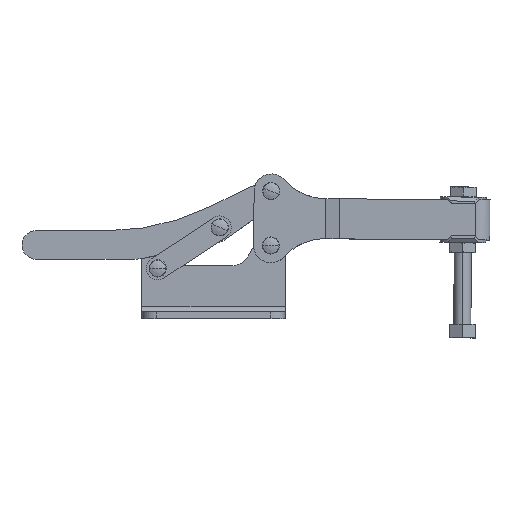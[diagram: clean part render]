
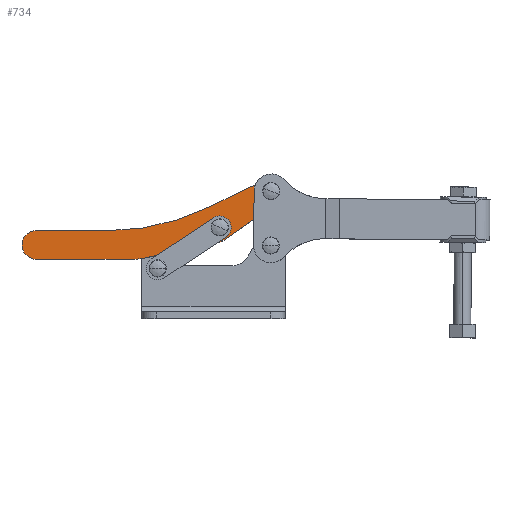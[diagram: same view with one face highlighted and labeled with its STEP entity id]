
A CAD part, top view. The second image highlights one B-rep face of the part: STEP entity #734.
In plain terms, the highlighted planar face has unit normal (0, 0, 1) as drawn and (0, -1, 0) by its records, which use the part's own axes.
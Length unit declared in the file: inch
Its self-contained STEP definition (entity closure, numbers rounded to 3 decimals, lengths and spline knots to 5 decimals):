
#264=CARTESIAN_POINT('',(5.80858,0.0,0.88249));
#265=VERTEX_POINT('',#264);
#281=CARTESIAN_POINT('',(5.55458,0.0,0.88249));
#282=VERTEX_POINT('',#281);
#289=CARTESIAN_POINT('',(5.68158,0.0,0.88249));
#290=DIRECTION('',(0.0,1.0,0.0));
#291=DIRECTION('',(1.0,0.0,0.0));
#292=AXIS2_PLACEMENT_3D('',#289,#290,#291);
#293=CIRCLE('',#292,0.127);
#294=EDGE_CURVE('',#265,#282,#293,.T.);
#306=CARTESIAN_POINT('',(4.68587,0.0,0.08974));
#307=VERTEX_POINT('',#306);
#323=CARTESIAN_POINT('',(4.43187,0.0,0.08974));
#324=VERTEX_POINT('',#323);
#331=CARTESIAN_POINT('',(4.55887,0.0,0.08974));
#332=DIRECTION('',(0.0,1.0,0.0));
#333=DIRECTION('',(1.0,0.0,0.0));
#334=AXIS2_PLACEMENT_3D('',#331,#332,#333);
#335=CIRCLE('',#334,0.127);
#336=EDGE_CURVE('',#307,#324,#335,.T.);
#347=CARTESIAN_POINT('',(4.55887,0.0,0.08974));
#348=DIRECTION('',(0.0,1.0,0.0));
#349=DIRECTION('',(1.0,0.0,0.0));
#350=AXIS2_PLACEMENT_3D('',#347,#348,#349);
#351=CIRCLE('',#350,0.127);
#352=EDGE_CURVE('',#324,#307,#351,.T.);
#371=CARTESIAN_POINT('',(5.68158,0.0,0.88249));
#372=DIRECTION('',(0.0,1.0,0.0));
#373=DIRECTION('',(1.0,0.0,0.0));
#374=AXIS2_PLACEMENT_3D('',#371,#372,#373);
#375=CIRCLE('',#374,0.127);
#376=EDGE_CURVE('',#282,#265,#375,.T.);
#405=CARTESIAN_POINT('',(2.90925,0.0,-0.58089));
#406=VERTEX_POINT('',#405);
#413=CARTESIAN_POINT('',(2.64936,0.0,-0.6082));
#414=VERTEX_POINT('',#413);
#415=CARTESIAN_POINT('',(2.64936,0.0,0.6418));
#416=DIRECTION('',(0.0,1.0,0.0));
#417=DIRECTION('',(0.208,0.0,-0.978));
#418=AXIS2_PLACEMENT_3D('',#415,#416,#417);
#419=CIRCLE('',#418,1.25);
#420=EDGE_CURVE('',#406,#414,#419,.T.);
#444=CARTESIAN_POINT('',(4.55121,0.0,-0.23188));
#445=VERTEX_POINT('',#444);
#452=CARTESIAN_POINT('',(4.55121,0.0,-0.23188));
#453=DIRECTION('',(-0.978,0.0,-0.208));
#454=VECTOR('',#453,1.67864);
#455=LINE('',#452,#454);
#456=EDGE_CURVE('',#445,#406,#455,.T.);
#476=CARTESIAN_POINT('',(4.6545,0.0,-0.18673));
#477=VERTEX_POINT('',#476);
#484=CARTESIAN_POINT('',(4.49299,0.0,0.042));
#485=DIRECTION('',(0.0,1.,0.0));
#486=DIRECTION('',(0.577,0.0,-0.817));
#487=AXIS2_PLACEMENT_3D('',#484,#485,#486);
#488=CIRCLE('',#487,0.28);
#489=EDGE_CURVE('',#477,#445,#488,.T.);
#508=CARTESIAN_POINT('',(5.84366,0.0,0.65294));
#509=VERTEX_POINT('',#508);
#516=CARTESIAN_POINT('',(5.84366,0.0,0.65294));
#517=DIRECTION('',(-0.817,0.0,-0.577));
#518=VECTOR('',#517,1.45573);
#519=LINE('',#516,#518);
#520=EDGE_CURVE('',#509,#477,#519,.T.);
#540=CARTESIAN_POINT('',(5.5556,0.0,1.13367));
#541=VERTEX_POINT('',#540);
#548=CARTESIAN_POINT('',(5.68158,0.0,0.88249));
#549=DIRECTION('',(0.0,1.,0.0));
#550=DIRECTION('',(-0.448,0.0,0.894));
#551=AXIS2_PLACEMENT_3D('',#548,#549,#550);
#552=CIRCLE('',#551,0.281);
#553=EDGE_CURVE('',#541,#509,#552,.T.);
#572=CARTESIAN_POINT('',(4.31955,0.0,0.53133));
#573=VERTEX_POINT('',#572);
#580=CARTESIAN_POINT('',(4.31955,0.0,0.53133));
#581=DIRECTION('',(0.899,0.0,0.438));
#582=VECTOR('',#581,1.37501);
#583=LINE('',#580,#582);
#584=EDGE_CURVE('',#573,#541,#583,.T.);
#604=CARTESIAN_POINT('',(2.11236,0.0,0.0178));
#605=VERTEX_POINT('',#604);
#612=CARTESIAN_POINT('',(2.11236,0.0,5.0178));
#613=DIRECTION('',(0.0,-1.0,0.0));
#614=DIRECTION('',(-0.441,0.0,0.897));
#615=AXIS2_PLACEMENT_3D('',#612,#613,#614);
#616=CIRCLE('',#615,5.);
#617=EDGE_CURVE('',#605,#573,#616,.T.);
#636=CARTESIAN_POINT('',(0.55536,0.0,0.0178));
#637=VERTEX_POINT('',#636);
#644=CARTESIAN_POINT('',(0.55536,0.0,0.0178));
#645=DIRECTION('',(1.0,0.0,0.0));
#646=VECTOR('',#645,1.557);
#647=LINE('',#644,#646);
#648=EDGE_CURVE('',#637,#605,#647,.T.);
#668=CARTESIAN_POINT('',(0.55536,0.0,-0.6082));
#669=VERTEX_POINT('',#668);
#676=CARTESIAN_POINT('',(0.55536,0.0,-0.2952));
#677=DIRECTION('',(0.0,1.0,0.0));
#678=DIRECTION('',(0.0,0.0,-1.0));
#679=AXIS2_PLACEMENT_3D('',#676,#677,#678);
#680=CIRCLE('',#679,0.313);
#681=EDGE_CURVE('',#669,#637,#680,.T.);
#699=CARTESIAN_POINT('',(2.64936,0.0,-0.6082));
#700=DIRECTION('',(-1.0,0.0,0.0));
#701=VECTOR('',#700,2.094);
#702=LINE('',#699,#701);
#703=EDGE_CURVE('',#414,#669,#702,.T.);
#709=CARTESIAN_POINT('',(3.16597,0.0,0.02804));
#710=DIRECTION('',(0.0,1.0,0.0));
#711=DIRECTION('',(0.0,0.0,1.0));
#712=AXIS2_PLACEMENT_3D('',#709,#710,#711);
#713=PLANE('',#712);
#714=ORIENTED_EDGE('',*,*,#703,.F.);
#715=ORIENTED_EDGE('',*,*,#420,.F.);
#716=ORIENTED_EDGE('',*,*,#456,.F.);
#717=ORIENTED_EDGE('',*,*,#489,.F.);
#718=ORIENTED_EDGE('',*,*,#520,.F.);
#719=ORIENTED_EDGE('',*,*,#553,.F.);
#720=ORIENTED_EDGE('',*,*,#584,.F.);
#721=ORIENTED_EDGE('',*,*,#617,.F.);
#722=ORIENTED_EDGE('',*,*,#648,.F.);
#723=ORIENTED_EDGE('',*,*,#681,.F.);
#724=EDGE_LOOP('',(#714,#715,#716,#717,#718,#719,#720,#721,#722,#723));
#725=FACE_OUTER_BOUND('',#724,.T.);
#726=ORIENTED_EDGE('',*,*,#352,.T.);
#727=ORIENTED_EDGE('',*,*,#336,.T.);
#728=EDGE_LOOP('',(#726,#727));
#729=FACE_BOUND('',#728,.T.);
#730=ORIENTED_EDGE('',*,*,#376,.T.);
#731=ORIENTED_EDGE('',*,*,#294,.T.);
#732=EDGE_LOOP('',(#730,#731));
#733=FACE_BOUND('',#732,.T.);
#734=ADVANCED_FACE('',(#725,#729,#733),#713,.F.);
